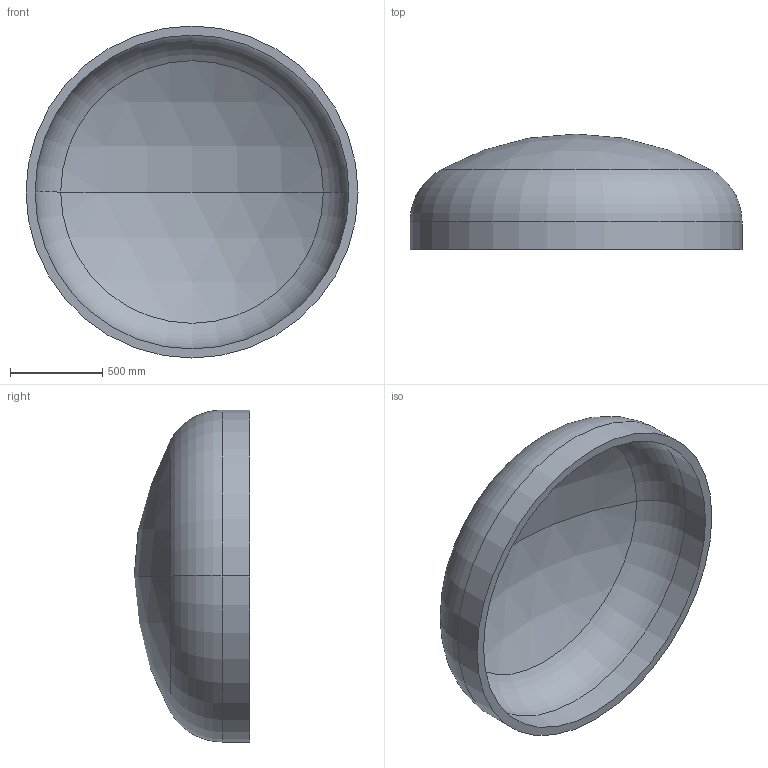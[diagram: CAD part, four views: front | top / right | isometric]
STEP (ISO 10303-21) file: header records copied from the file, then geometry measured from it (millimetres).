
FILE_DESCRIPTION (( 'STEP AP203' ), '1' );
FILE_NAME ('DIN 28013 Korbbogenform_-_Boden DIN 28013 - 1800 x 150 - I - s=49.step', '2016-07-01T12:33:31', ( '' ), ( '' ), 'SwSTEP 2.0', 'SolidWorks 2013', '' );
FILE_SCHEMA (( 'CONFIG_CONTROL_DESIGN' ));
Length unit declared in the file: millimetre
Products named in the file (1): DIN 28013 Korbbogenform_-_Boden DIN 28013 - 1800 x 150 - I - s=49
Bounding box: 1800 x 626.36 x 1800 mm (x, y, z)
Volume: 206813783.4 mm3; surface area: 8715950.6 mm2
Topology: 1 solids, 1 shells, 13 faces, 24 edges, 14 vertices
Faces by surface type: torus 4, cylinder 4, sphere 4, plane 1
Entity records: 407 total; most frequent: DIRECTION 72, CARTESIAN_POINT 52, ORIENTED_EDGE 48, AXIS2_PLACEMENT_3D 34, EDGE_CURVE 24, CIRCLE 20, EDGE_LOOP 14, VERTEX_POINT 14
